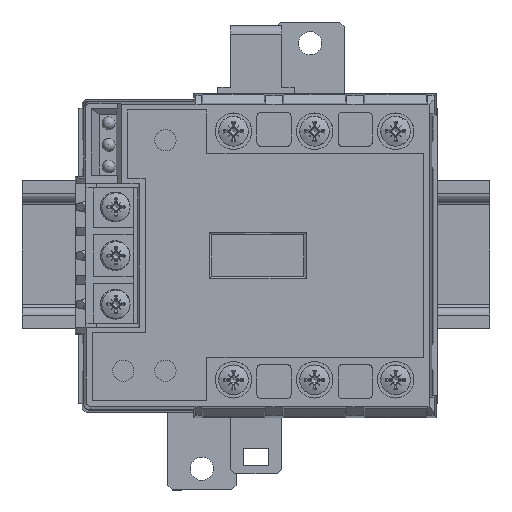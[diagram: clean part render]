
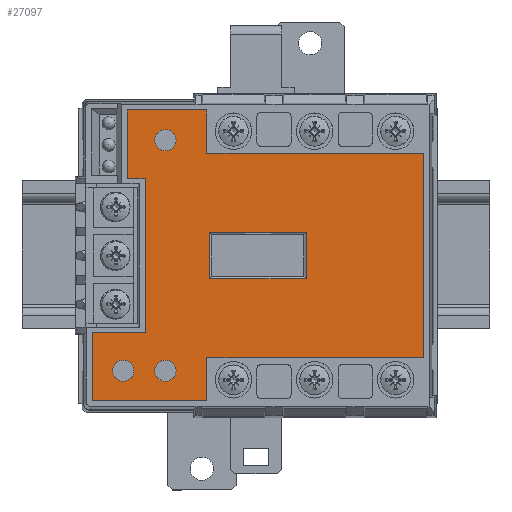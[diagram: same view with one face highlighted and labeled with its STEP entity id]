
A CAD part, top view. The second image highlights one B-rep face of the part: STEP entity #27097.
In plain terms, the highlighted planar face has unit normal (0, 0, 1).
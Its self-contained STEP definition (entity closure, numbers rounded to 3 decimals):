
#879=FACE_BOUND('',#4917,.T.);
#880=FACE_BOUND('',#4918,.T.);
#881=FACE_BOUND('',#4919,.T.);
#882=FACE_BOUND('',#4920,.T.);
#953=CIRCLE('',#28076,2.5);
#955=CIRCLE('',#28079,2.5);
#957=CIRCLE('',#28082,2.5);
#3446=FACE_OUTER_BOUND('',#4916,.T.);
#4916=EDGE_LOOP('',(#20812,#20813,#20814,#20815,#20816,#20817,#20818,#20819,
#20820,#20821,#20822,#20823));
#4917=EDGE_LOOP('',(#20824));
#4918=EDGE_LOOP('',(#20825));
#4919=EDGE_LOOP('',(#20826));
#4920=EDGE_LOOP('',(#20827,#20828,#20829,#20830));
#5829=LINE('',#38024,#8487);
#5837=LINE('',#38038,#8495);
#5927=LINE('',#38255,#8585);
#5930=LINE('',#38261,#8588);
#5936=LINE('',#38273,#8594);
#5938=LINE('',#38278,#8596);
#5957=LINE('',#38319,#8615);
#7089=LINE('',#41933,#9747);
#7157=LINE('',#42065,#9815);
#7236=LINE('',#42421,#9894);
#7238=LINE('',#42425,#9896);
#7239=LINE('',#42427,#9897);
#7240=LINE('',#42429,#9898);
#7241=LINE('',#42431,#9899);
#7242=LINE('',#42432,#9900);
#7243=LINE('',#42433,#9901);
#8487=VECTOR('',#30518,1.);
#8495=VECTOR('',#30530,1.);
#8585=VECTOR('',#30700,1.);
#8588=VECTOR('',#30705,1.);
#8594=VECTOR('',#30713,1.);
#8596=VECTOR('',#30717,1.);
#8615=VECTOR('',#30744,1.);
#9747=VECTOR('',#33054,1.);
#9815=VECTOR('',#33188,1.);
#9894=VECTOR('',#33641,1.);
#9896=VECTOR('',#33645,1.);
#9897=VECTOR('',#33646,1.);
#9898=VECTOR('',#33647,1.);
#9899=VECTOR('',#33648,1.);
#9900=VECTOR('',#33649,1.);
#9901=VECTOR('',#33650,1.);
#11140=VERTEX_POINT('',#38021);
#11141=VERTEX_POINT('',#38023);
#11145=VERTEX_POINT('',#38036);
#11147=VERTEX_POINT('',#38044);
#11149=VERTEX_POINT('',#38050);
#11151=VERTEX_POINT('',#38056);
#11231=VERTEX_POINT('',#38252);
#11232=VERTEX_POINT('',#38254);
#11234=VERTEX_POINT('',#38260);
#11237=VERTEX_POINT('',#38267);
#11239=VERTEX_POINT('',#38271);
#11241=VERTEX_POINT('',#38277);
#11258=VERTEX_POINT('',#38317);
#11259=VERTEX_POINT('',#38318);
#12159=VERTEX_POINT('',#41932);
#12281=VERTEX_POINT('',#42424);
#12282=VERTEX_POINT('',#42426);
#12283=VERTEX_POINT('',#42428);
#12284=VERTEX_POINT('',#42430);
#13720=EDGE_CURVE('',#11141,#11140,#5829,.T.);
#13728=EDGE_CURVE('',#11140,#11145,#5837,.T.);
#13731=EDGE_CURVE('',#11147,#11147,#953,.T.);
#13734=EDGE_CURVE('',#11149,#11149,#955,.T.);
#13737=EDGE_CURVE('',#11151,#11151,#957,.T.);
#13831=EDGE_CURVE('',#11231,#11232,#5927,.F.);
#13834=EDGE_CURVE('',#11234,#11231,#5930,.F.);
#13840=EDGE_CURVE('',#11239,#11237,#5936,.T.);
#13842=EDGE_CURVE('',#11237,#11241,#5938,.T.);
#13861=EDGE_CURVE('',#11258,#11259,#5957,.T.);
#15200=EDGE_CURVE('',#12159,#11141,#7089,.T.);
#15268=EDGE_CURVE('',#11145,#12159,#7157,.T.);
#15443=EDGE_CURVE('',#11234,#11241,#7236,.T.);
#15445=EDGE_CURVE('',#12281,#11239,#7238,.T.);
#15446=EDGE_CURVE('',#12282,#12281,#7239,.T.);
#15447=EDGE_CURVE('',#12283,#12282,#7240,.T.);
#15448=EDGE_CURVE('',#12284,#12283,#7241,.T.);
#15449=EDGE_CURVE('',#11259,#12284,#7242,.T.);
#15450=EDGE_CURVE('',#11232,#11258,#7243,.T.);
#20812=ORIENTED_EDGE('',*,*,#13831,.F.);
#20813=ORIENTED_EDGE('',*,*,#13834,.F.);
#20814=ORIENTED_EDGE('',*,*,#15443,.T.);
#20815=ORIENTED_EDGE('',*,*,#13842,.F.);
#20816=ORIENTED_EDGE('',*,*,#13840,.F.);
#20817=ORIENTED_EDGE('',*,*,#15445,.F.);
#20818=ORIENTED_EDGE('',*,*,#15446,.F.);
#20819=ORIENTED_EDGE('',*,*,#15447,.F.);
#20820=ORIENTED_EDGE('',*,*,#15448,.F.);
#20821=ORIENTED_EDGE('',*,*,#15449,.F.);
#20822=ORIENTED_EDGE('',*,*,#13861,.F.);
#20823=ORIENTED_EDGE('',*,*,#15450,.F.);
#20824=ORIENTED_EDGE('',*,*,#13737,.T.);
#20825=ORIENTED_EDGE('',*,*,#13734,.T.);
#20826=ORIENTED_EDGE('',*,*,#13731,.T.);
#20827=ORIENTED_EDGE('',*,*,#13720,.T.);
#20828=ORIENTED_EDGE('',*,*,#13728,.T.);
#20829=ORIENTED_EDGE('',*,*,#15268,.T.);
#20830=ORIENTED_EDGE('',*,*,#15200,.T.);
#26026=PLANE('',#28930);
#27097=ADVANCED_FACE('',(#3446,#879,#880,#881,#882),#26026,.F.);
#28076=AXIS2_PLACEMENT_3D('',#38045,#30537,#30538);
#28079=AXIS2_PLACEMENT_3D('',#38051,#30544,#30545);
#28082=AXIS2_PLACEMENT_3D('',#38057,#30551,#30552);
#28930=AXIS2_PLACEMENT_3D('',#42423,#33643,#33644);
#30518=DIRECTION('',(0.,-1.,0.));
#30530=DIRECTION('',(-1.,0.,0.));
#30537=DIRECTION('center_axis',(0.,0.,
-1.));
#30538=DIRECTION('ref_axis',(1.,0.,0.));
#30544=DIRECTION('center_axis',(0.,0.,
-1.));
#30545=DIRECTION('ref_axis',(1.,0.,0.));
#30551=DIRECTION('center_axis',(0.,0.,
-1.));
#30552=DIRECTION('ref_axis',(1.,0.,0.));
#30700=DIRECTION('',(0.,-1.,0.));
#30705=DIRECTION('',(-1.,0.,0.));
#30713=DIRECTION('',(0.,1.,0.));
#30717=DIRECTION('',(-1.,0.,0.));
#30744=DIRECTION('',(0.,-1.,0.));
#33054=DIRECTION('',(1.,0.,0.));
#33188=DIRECTION('',(0.,1.,0.));
#33641=DIRECTION('',(0.,-1.,0.));
#33643=DIRECTION('center_axis',(0.,0.,
-1.));
#33644=DIRECTION('ref_axis',(1.,0.,0.));
#33645=DIRECTION('',(-1.,0.,0.));
#33646=DIRECTION('',(0.,-1.,0.));
#33647=DIRECTION('',(1.,0.,0.));
#33648=DIRECTION('',(0.,-1.,0.));
#33649=DIRECTION('',(-1.,0.,0.));
#33650=DIRECTION('',(1.,0.,0.));
#38021=CARTESIAN_POINT('',(-3.216,5.03,55.9));
#38023=CARTESIAN_POINT('',(-3.216,15.855,55.9));
#38024=CARTESIAN_POINT('',(-3.216,19.736,55.9));
#38036=CARTESIAN_POINT('',(-25.841,5.03,55.9));
#38038=CARTESIAN_POINT('',(-39.685,5.03,55.9));
#38044=CARTESIAN_POINT('',(9.721,-16.657,55.9));
#38045=CARTESIAN_POINT('Origin',(7.221,-16.657,55.9));
#38050=CARTESIAN_POINT('',(19.631,37.543,55.9));
#38051=CARTESIAN_POINT('Origin',(17.131,37.543,55.9));
#38056=CARTESIAN_POINT('',(9.721,37.543,55.9));
#38057=CARTESIAN_POINT('Origin',(7.221,37.543,55.9));
#38252=CARTESIAN_POINT('',(-2.529,34.443,55.9));
#38254=CARTESIAN_POINT('',(-2.529,44.643,55.9));
#38255=CARTESIAN_POINT('',(-2.529,39.543,55.9));
#38260=CARTESIAN_POINT('',(-53.529,34.443,55.9));
#38261=CARTESIAN_POINT('',(-3.029,34.443,55.9));
#38267=CARTESIAN_POINT('',(-2.529,-13.557,55.9));
#38271=CARTESIAN_POINT('',(-2.529,-23.757,55.9));
#38273=CARTESIAN_POINT('',(-2.529,-18.657,55.9));
#38277=CARTESIAN_POINT('',(-53.529,-13.557,55.9));
#38278=CARTESIAN_POINT('',(-54.529,-13.557,55.9));
#38317=CARTESIAN_POINT('',(24.471,44.643,55.9));
#38318=CARTESIAN_POINT('',(24.471,28.443,55.9));
#38319=CARTESIAN_POINT('',(24.471,28.443,55.9));
#41932=CARTESIAN_POINT('',(-25.841,15.855,55.9));
#41933=CARTESIAN_POINT('',(-28.372,15.855,55.9));
#42065=CARTESIAN_POINT('',(-25.841,25.149,55.9));
#42421=CARTESIAN_POINT('',(-53.529,22.443,55.9));
#42423=CARTESIAN_POINT('Origin',(-53.529,34.443,55.9));
#42424=CARTESIAN_POINT('',(16.171,-23.757,55.9));
#42425=CARTESIAN_POINT('',(-3.529,-23.757,55.9));
#42426=CARTESIAN_POINT('',(16.171,-7.557,55.9));
#42427=CARTESIAN_POINT('',(16.171,-15.657,55.9));
#42428=CARTESIAN_POINT('',(11.971,-7.557,55.9));
#42429=CARTESIAN_POINT('',(15.171,-7.557,55.9));
#42430=CARTESIAN_POINT('',(11.971,28.443,55.9));
#42431=CARTESIAN_POINT('',(11.971,10.443,55.9));
#42432=CARTESIAN_POINT('',(11.971,28.443,55.9));
#42433=CARTESIAN_POINT('',(24.471,44.643,55.9));
